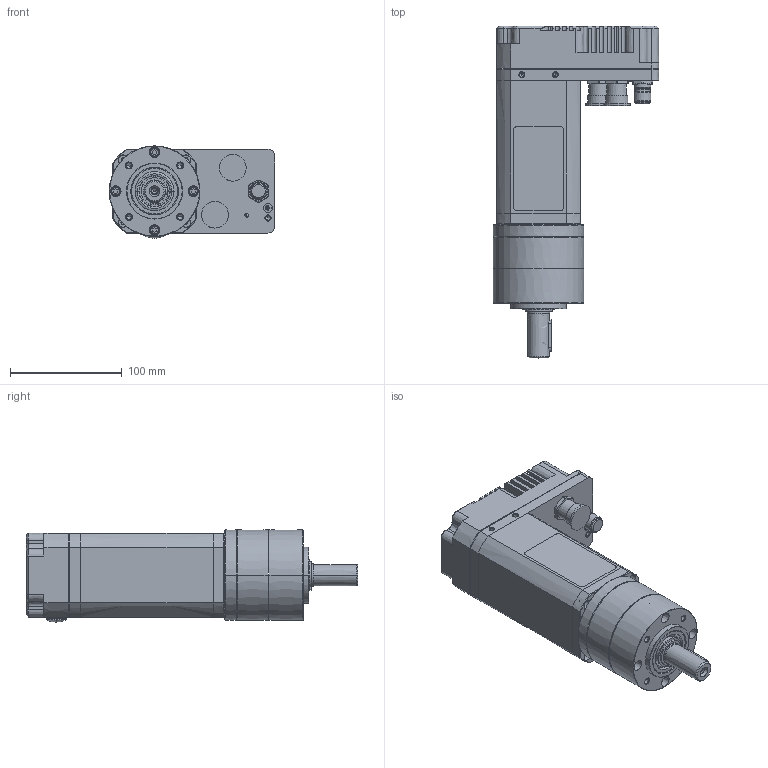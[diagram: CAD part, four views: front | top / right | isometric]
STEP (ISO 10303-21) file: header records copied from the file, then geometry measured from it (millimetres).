
FILE_DESCRIPTION((''),'2;1');
FILE_NAME('8037E_1STAGE','2018-08-28T',('ALECMA1'),('CROUZET-AUTOMATISMES'),'CREO PARAMETRIC BY PTC INC, 2017170','CREO PARAMETRIC BY PTC INC, 2017170','');
FILE_SCHEMA(('AP203_CONFIGURATION_CONTROLLED_3D_DESIGN_OF_MECHANICAL_PARTS_AND_ASSEMBLIES_MIM_LF { 1 0 10303 403 2 1 2 }'));
Products named in the file (1): 8037E_1STAGE
Bounding box: 148 x 297 x 82.49 mm (x, y, z)
Surface area: 146064.7 mm2 (no closed solid volume)
Topology: 0 solids, 0 shells, 695 faces, 3561 edges, 3523 vertices
Faces by surface type: bspline 671, torus 20, sphere 4
Entity records: 70182 total; most frequent: CARTESIAN_POINT 32165, DIRECTION 5656, TRIMMED_CURVE 4790, VECTOR 3997, LINE 3997, DEFINITIONAL_REPRESENTATION 3507, PCURVE 3507, COMPOSITE_CURVE_SEGMENT 3507
